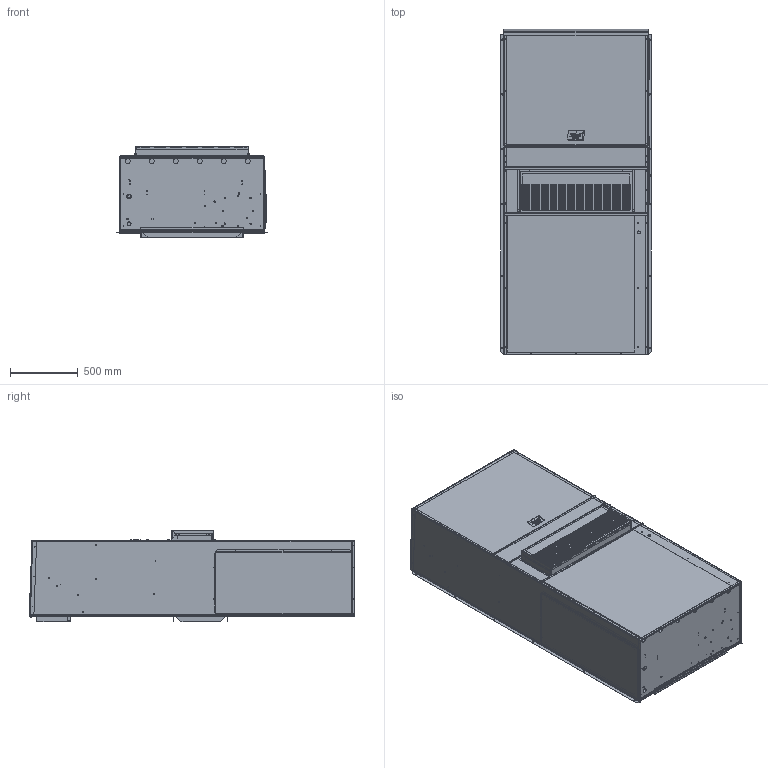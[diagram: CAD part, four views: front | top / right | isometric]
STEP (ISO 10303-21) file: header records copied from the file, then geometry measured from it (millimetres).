
FILE_DESCRIPTION (( 'STEP AP203' ), '1' );
FILE_NAME ('STEP_1400_3.STEP', '2016-06-28T19:35:21', ( 'BMC' ), ( 'Bard Manufacturing Co., Inc.' ), 'SwSTEP 2.0', 'SolidWorks 2016', '' );
FILE_SCHEMA (( 'CONFIG_CONTROL_DESIGN' ));
Products named in the file (1): STEP_1400_3
Bounding box: 1113.88 x 2411.7 x 679.96 mm (x, y, z)
Surface area: 20584689.3 mm2 (no closed solid volume)
Topology: 0 solids, 63 shells, 3253 faces, 9729 edges, 6432 vertices
Faces by surface type: plane 1695, cylinder 1099, bspline 431, torus 12, cone 12, sphere 4
Entity records: 131382 total; most frequent: CARTESIAN_POINT 42862, ORIENTED_EDGE 18453, DIRECTION 17469, EDGE_CURVE 9715, VERTEX_POINT 6430, VECTOR 6081, LINE 6081, AXIS2_PLACEMENT_3D 5694
